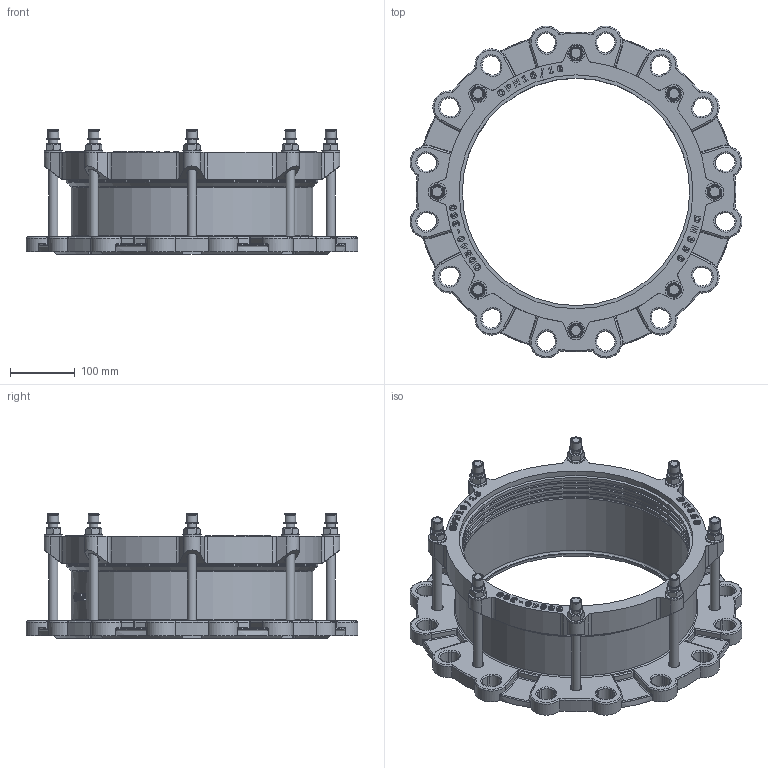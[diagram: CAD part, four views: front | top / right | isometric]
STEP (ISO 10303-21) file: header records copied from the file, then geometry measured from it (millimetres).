
FILE_DESCRIPTION(('STEP AP203'), '1');
FILE_NAME('Ôëàíöåâûé àäàïòåð', '', ('UNSPECIFIED'), ('UNSPECIFIED'), 'C3D Converter', 'C3D Toolkit', '');
FILE_SCHEMA(('CONFIG_CONTROL_DESIGN'));
Length unit declared in the file: millimetre
Assembly tree (35 placements, depth 2):
  (unnamed)
    (unnamed)
    (unnamed)  x8
    (unnamed)  x8
    (unnamed)  x8
    (unnamed)  x8
    (unnamed)
    (unnamed)
Bounding box: 510.95 x 510.95 x 191.4 mm (x, y, z)
Volume: 4091060.4 mm3; surface area: 949898.3 mm2
Topology: 35 solids, 35 shells, 1654 faces, 4165 edges, 2548 vertices
Faces by surface type: plane 498, extrusion 428, cylinder 418, torus 131, cone 67, bspline 64, sphere 48
Full cylindrical faces by diameter (mm): 13.478 x1, 14 x24, 15 x8, 16 x16, 16.8 x8, 19.6 x8, 28 x8, 350 x5, 355 x3, 360 x2, 366 x1, 372 x2, 387 x1, 390 x2
Entity records: 60683 total; most frequent: CARTESIAN_POINT 23463, ORIENTED_EDGE 6866, DIRECTION 5483, EDGE_CURVE 3433, VERTEX_POINT 2184, VECTOR 1873, AXIS2_PLACEMENT_3D 1805, EDGE_LOOP 1573
